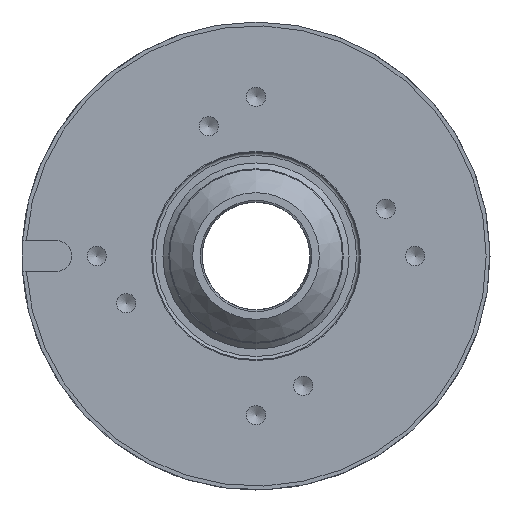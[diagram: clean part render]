
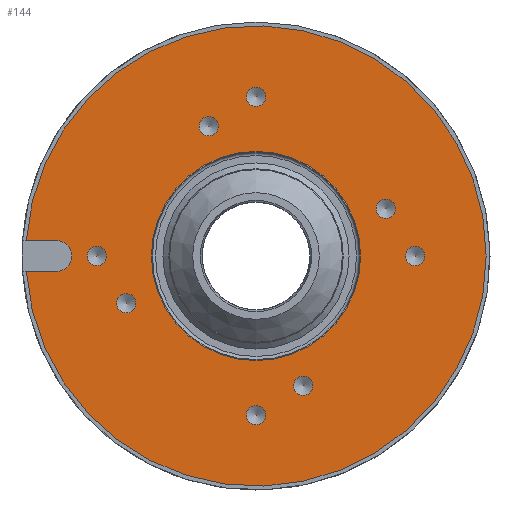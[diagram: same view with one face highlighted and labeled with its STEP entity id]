
A CAD part, left-side view. The second image highlights one B-rep face of the part: STEP entity #144.
In plain terms, the highlighted planar face has unit normal (-1, 0, 0).
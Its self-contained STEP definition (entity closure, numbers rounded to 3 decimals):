
#5 = CARTESIAN_POINT ( 'NONE',  ( 0., 0., 0. ) ) ;
#6 = ORIENTED_EDGE ( 'NONE', *, *, #1927, .F. ) ;
#18 = DIRECTION ( 'NONE',  ( 0., 1., 0. ) ) ;
#22 = DIRECTION ( 'NONE',  ( 0., 0., 1. ) ) ;
#32 = DIRECTION ( 'NONE',  ( 1., 0., 0. ) ) ;
#69 = EDGE_CURVE ( 'NONE', #159, #1881, #536, .T. ) ;
#80 = CIRCLE ( 'NONE', #715, 60. ) ;
#96 = FACE_BOUND ( 'NONE', #619, .T. ) ;
#97 = ORIENTED_EDGE ( 'NONE', *, *, #1530, .F. ) ;
#105 = VERTEX_POINT ( 'NONE', #1322 ) ;
#140 = DIRECTION ( 'NONE',  ( 0., 0., 1. ) ) ;
#144 = ADVANCED_FACE ( 'NONE', ( #1446, #96, #1020, #2096, #1873, #1070, #889, #1794, #1890, #505 ), #1826, .F. ) ;
#158 = VERTEX_POINT ( 'NONE', #1471 ) ;
#159 = VERTEX_POINT ( 'NONE', #1648 ) ;
#215 = ORIENTED_EDGE ( 'NONE', *, *, #1408, .F. ) ;
#222 = DIRECTION ( 'NONE',  ( -1., 0., 0. ) ) ;
#223 = AXIS2_PLACEMENT_3D ( 'NONE', #5, #1130, #140 ) ;
#227 = VERTEX_POINT ( 'NONE', #1931 ) ;
#230 = CARTESIAN_POINT ( 'NONE',  ( 0., 60.869, -4. ) ) ;
#265 = ORIENTED_EDGE ( 'NONE', *, *, #501, .F. ) ;
#274 = VERTEX_POINT ( 'NONE', #1754 ) ;
#304 = DIRECTION ( 'NONE',  ( -1., 0., 0. ) ) ;
#387 = ORIENTED_EDGE ( 'NONE', *, *, #1636, .T. ) ;
#465 = LINE ( 'NONE', #230, #1444 ) ;
#476 = DIRECTION ( 'NONE',  ( -1., 0., 0. ) ) ;
#479 = AXIS2_PLACEMENT_3D ( 'NONE', #694, #506, #531 ) ;
#481 = CIRCLE ( 'NONE', #223, 27.25 ) ;
#501 = EDGE_CURVE ( 'NONE', #1156, #1156, #1556, .T. ) ;
#505 = FACE_BOUND ( 'NONE', #1080, .T. ) ;
#506 = DIRECTION ( 'NONE',  ( -1., 0., 0. ) ) ;
#531 = DIRECTION ( 'NONE',  ( 0., 0., 1. ) ) ;
#536 = LINE ( 'NONE', #1145, #1371 ) ;
#560 = DIRECTION ( 'NONE',  ( 0., 0., 1. ) ) ;
#619 = EDGE_LOOP ( 'NONE', ( #97 ) ) ;
#634 = EDGE_LOOP ( 'NONE', ( #6 ) ) ;
#661 = ORIENTED_EDGE ( 'NONE', *, *, #1054, .F. ) ;
#664 = EDGE_LOOP ( 'NONE', ( #2108 ) ) ;
#681 = VERTEX_POINT ( 'NONE', #935 ) ;
#694 = CARTESIAN_POINT ( 'NONE',  ( 0., -41.5, 0. ) ) ;
#714 = DIRECTION ( 'NONE',  ( -1., 0., 0. ) ) ;
#715 = AXIS2_PLACEMENT_3D ( 'NONE', #1120, #1003, #22 ) ;
#725 = CARTESIAN_POINT ( 'NONE',  ( 0., 0., -41.5 ) ) ;
#736 = CARTESIAN_POINT ( 'NONE',  ( 0., -12.313, -33.829 ) ) ;
#780 = CARTESIAN_POINT ( 'NONE',  ( 0., 41.5, 0. ) ) ;
#786 = DIRECTION ( 'NONE',  ( -1., 0., 0. ) ) ;
#805 = DIRECTION ( 'NONE',  ( -1., 0., 0. ) ) ;
#822 = DIRECTION ( 'NONE',  ( 0., 0., 1. ) ) ;
#824 = DIRECTION ( 'NONE',  ( 0., 0., 1. ) ) ;
#889 = FACE_BOUND ( 'NONE', #1535, .T. ) ;
#895 = CIRCLE ( 'NONE', #1961, 2.5 ) ;
#935 = CARTESIAN_POINT ( 'NONE',  ( 0., 33.829, -9.813 ) ) ;
#951 = DIRECTION ( 'NONE',  ( 0., 0., 1. ) ) ;
#968 = AXIS2_PLACEMENT_3D ( 'NONE', #1173, #1817, #822 ) ;
#978 = CARTESIAN_POINT ( 'NONE',  ( 0., -33.829, 12.313 ) ) ;
#1003 = DIRECTION ( 'NONE',  ( -1., 0., 0. ) ) ;
#1020 = FACE_BOUND ( 'NONE', #664, .T. ) ;
#1050 = VERTEX_POINT ( 'NONE', #1591 ) ;
#1054 = EDGE_CURVE ( 'NONE', #158, #105, #465, .T. ) ;
#1058 = EDGE_LOOP ( 'NONE', ( #1224 ) ) ;
#1070 = FACE_BOUND ( 'NONE', #634, .T. ) ;
#1072 = AXIS2_PLACEMENT_3D ( 'NONE', #1785, #786, #951 ) ;
#1080 = EDGE_LOOP ( 'NONE', ( #215 ) ) ;
#1099 = CARTESIAN_POINT ( 'NONE',  ( 0., -41.5, 2.5 ) ) ;
#1109 = DIRECTION ( 'NONE',  ( 0., 0., 1. ) ) ;
#1114 = CARTESIAN_POINT ( 'NONE',  ( 0., 0., -39. ) ) ;
#1116 = DIRECTION ( 'NONE',  ( 0., 0., 1. ) ) ;
#1120 = CARTESIAN_POINT ( 'NONE',  ( 0., 0., 0. ) ) ;
#1128 = AXIS2_PLACEMENT_3D ( 'NONE', #1813, #32, #1987 ) ;
#1130 = DIRECTION ( 'NONE',  ( -1., 0., 0. ) ) ;
#1145 = CARTESIAN_POINT ( 'NONE',  ( 0., 52., 4. ) ) ;
#1156 = VERTEX_POINT ( 'NONE', #1114 ) ;
#1173 = CARTESIAN_POINT ( 'NONE',  ( 0., 0., 41.5 ) ) ;
#1207 = EDGE_CURVE ( 'NONE', #1050, #1050, #1686, .T. ) ;
#1224 = ORIENTED_EDGE ( 'NONE', *, *, #1207, .F. ) ;
#1251 = AXIS2_PLACEMENT_3D ( 'NONE', #2093, #1267, #1116 ) ;
#1267 = DIRECTION ( 'NONE',  ( -1., 0., 0. ) ) ;
#1293 = ORIENTED_EDGE ( 'NONE', *, *, #1752, .F. ) ;
#1319 = VERTEX_POINT ( 'NONE', #2065 ) ;
#1322 = CARTESIAN_POINT ( 'NONE',  ( 0., 52., -4. ) ) ;
#1325 = CIRCLE ( 'NONE', #1251, 4. ) ;
#1357 = ORIENTED_EDGE ( 'NONE', *, *, #1876, .F. ) ;
#1371 = VECTOR ( 'NONE', #18, 1000. ) ;
#1379 = EDGE_CURVE ( 'NONE', #105, #159, #1325, .T. ) ;
#1396 = CIRCLE ( 'NONE', #1952, 2.5 ) ;
#1408 = EDGE_CURVE ( 'NONE', #681, #681, #895, .T. ) ;
#1430 = CARTESIAN_POINT ( 'NONE',  ( 0., 33.829, -12.313 ) ) ;
#1444 = VECTOR ( 'NONE', #1670, 1000. ) ;
#1446 = FACE_BOUND ( 'NONE', #1058, .T. ) ;
#1471 = CARTESIAN_POINT ( 'NONE',  ( 0., 59.867, -4. ) ) ;
#1472 = AXIS2_PLACEMENT_3D ( 'NONE', #736, #714, #1697 ) ;
#1514 = ORIENTED_EDGE ( 'NONE', *, *, #1761, .F. ) ;
#1520 = ORIENTED_EDGE ( 'NONE', *, *, #1379, .F. ) ;
#1530 = EDGE_CURVE ( 'NONE', #1762, #1762, #1973, .T. ) ;
#1535 = EDGE_LOOP ( 'NONE', ( #1514 ) ) ;
#1538 = EDGE_LOOP ( 'NONE', ( #1293 ) ) ;
#1556 = CIRCLE ( 'NONE', #2044, 2.5 ) ;
#1573 = CIRCLE ( 'NONE', #479, 2.5 ) ;
#1588 = EDGE_CURVE ( 'NONE', #274, #274, #1802, .T. ) ;
#1591 = CARTESIAN_POINT ( 'NONE',  ( 0., -12.313, -31.329 ) ) ;
#1631 = VERTEX_POINT ( 'NONE', #2082 ) ;
#1636 = EDGE_CURVE ( 'NONE', #158, #1881, #80, .T. ) ;
#1648 = CARTESIAN_POINT ( 'NONE',  ( 0., 52., 4. ) ) ;
#1670 = DIRECTION ( 'NONE',  ( 0., -1., 0. ) ) ;
#1686 = CIRCLE ( 'NONE', #1472, 2.5 ) ;
#1697 = DIRECTION ( 'NONE',  ( 0., 0., 1. ) ) ;
#1752 = EDGE_CURVE ( 'NONE', #227, #227, #1396, .T. ) ;
#1754 = CARTESIAN_POINT ( 'NONE',  ( 0., 41.5, 2.5 ) ) ;
#1761 = EDGE_CURVE ( 'NONE', #1631, #1631, #481, .T. ) ;
#1762 = VERTEX_POINT ( 'NONE', #1772 ) ;
#1772 = CARTESIAN_POINT ( 'NONE',  ( 0., 12.313, 36.329 ) ) ;
#1785 = CARTESIAN_POINT ( 'NONE',  ( 0., 12.313, 33.829 ) ) ;
#1794 = FACE_OUTER_BOUND ( 'NONE', #2073, .T. ) ;
#1802 = CIRCLE ( 'NONE', #1920, 2.5 ) ;
#1813 = CARTESIAN_POINT ( 'NONE',  ( 0., 60., 0. ) ) ;
#1814 = DIRECTION ( 'NONE',  ( 0., 0., 1. ) ) ;
#1817 = DIRECTION ( 'NONE',  ( -1., 0., 0. ) ) ;
#1821 = CARTESIAN_POINT ( 'NONE',  ( 0., 59.867, 4. ) ) ;
#1826 = PLANE ( 'NONE',  #1128 ) ;
#1841 = EDGE_LOOP ( 'NONE', ( #1357 ) ) ;
#1873 = FACE_BOUND ( 'NONE', #1841, .T. ) ;
#1876 = EDGE_CURVE ( 'NONE', #1990, #1990, #1573, .T. ) ;
#1881 = VERTEX_POINT ( 'NONE', #1821 ) ;
#1890 = FACE_BOUND ( 'NONE', #1538, .T. ) ;
#1920 = AXIS2_PLACEMENT_3D ( 'NONE', #780, #304, #824 ) ;
#1927 = EDGE_CURVE ( 'NONE', #1319, #1319, #2092, .T. ) ;
#1931 = CARTESIAN_POINT ( 'NONE',  ( 0., -33.829, 14.813 ) ) ;
#1952 = AXIS2_PLACEMENT_3D ( 'NONE', #978, #805, #1814 ) ;
#1961 = AXIS2_PLACEMENT_3D ( 'NONE', #1430, #476, #1109 ) ;
#1973 = CIRCLE ( 'NONE', #1072, 2.5 ) ;
#1987 = DIRECTION ( 'NONE',  ( 0., 0., -1. ) ) ;
#1990 = VERTEX_POINT ( 'NONE', #1099 ) ;
#2027 = ORIENTED_EDGE ( 'NONE', *, *, #69, .F. ) ;
#2044 = AXIS2_PLACEMENT_3D ( 'NONE', #725, #222, #560 ) ;
#2065 = CARTESIAN_POINT ( 'NONE',  ( 0., 0., 44. ) ) ;
#2073 = EDGE_LOOP ( 'NONE', ( #387, #2027, #1520, #661 ) ) ;
#2082 = CARTESIAN_POINT ( 'NONE',  ( 0., 0., 27.25 ) ) ;
#2084 = EDGE_LOOP ( 'NONE', ( #265 ) ) ;
#2092 = CIRCLE ( 'NONE', #968, 2.5 ) ;
#2093 = CARTESIAN_POINT ( 'NONE',  ( 0., 52., 0. ) ) ;
#2096 = FACE_BOUND ( 'NONE', #2084, .T. ) ;
#2108 = ORIENTED_EDGE ( 'NONE', *, *, #1588, .F. ) ;
